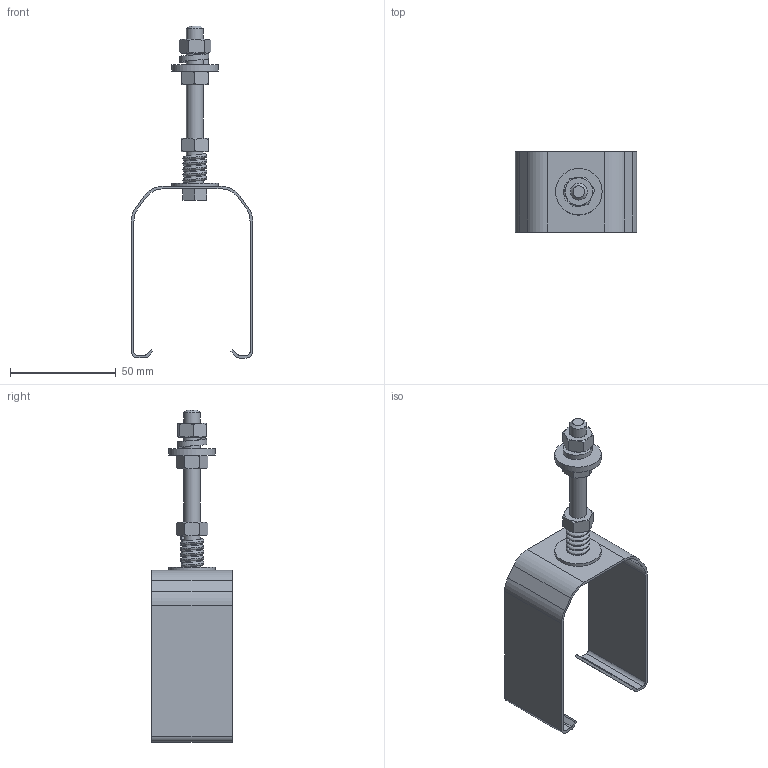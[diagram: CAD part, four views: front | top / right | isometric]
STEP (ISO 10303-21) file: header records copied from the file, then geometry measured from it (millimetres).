
FILE_DESCRIPTION(/* description */ ('Unknown'),/* implementation_level */ '2;1');
FILE_NAME(/* name */ 'MI1510_Suspension coulissante Inno_SPL',/* time_stamp */ '2018-08-14T15:25:19+02:00',/* author */ ('Unknown'),/* organization */ ('Unknown'),/* preprocessor_version */ 'ST-DEVELOPER v16.7',/* originating_system */ 'DEX',/* authorisation */ $);
FILE_SCHEMA (('AUTOMOTIVE_DESIGN {1 0 10303 214 3 1 1}'));
Length unit declared in the file: millimetre
Products named in the file (1): MI1510_Suspension coulissante Inno_SPL
Bounding box: 57.4 x 38 x 156.94 mm (x, y, z)
Volume: 18637.6 mm3; surface area: 22219.6 mm2
Topology: 2 solids, 2 shells, 137 faces, 343 edges, 220 vertices
Faces by surface type: plane 64, cone 31, cylinder 26, bspline 16
Full cylindrical faces by diameter (mm): 8 x8, 8.5 x2, 22 x2
Entity records: 10490 total; most frequent: CARTESIAN_POINT 6651, ORIENTED_EDGE 630, DIRECTION 538, EDGE_CURVE 315, VERTEX_POINT 206, AXIS2_PLACEMENT_3D 201, EDGE_LOOP 155, FACE_BOUND 155
